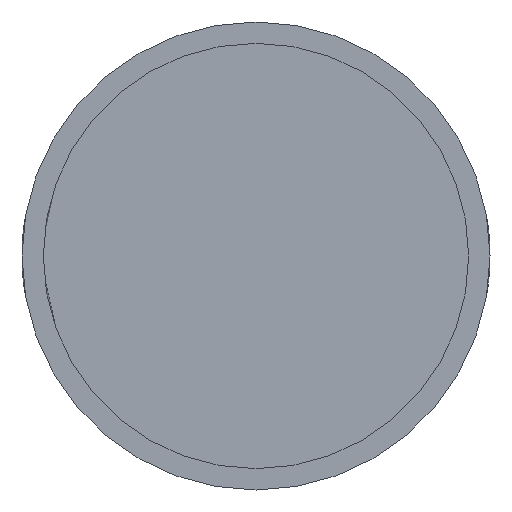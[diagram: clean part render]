
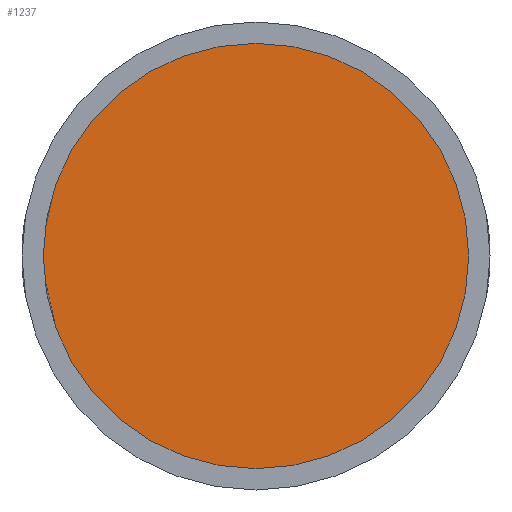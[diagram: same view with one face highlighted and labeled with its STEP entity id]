
A CAD part, front view. The second image highlights one B-rep face of the part: STEP entity #1237.
In plain terms, the highlighted planar face has unit normal (0, -1, 0).
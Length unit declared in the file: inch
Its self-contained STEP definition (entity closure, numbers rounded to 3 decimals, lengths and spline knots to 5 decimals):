
#22 = CIRCLE ( 'NONE', #4223, 0.624 ) ;
#117 = AXIS2_PLACEMENT_3D ( 'NONE', #3010, #682, #2671 ) ;
#208 = CIRCLE ( 'NONE', #210, 0.624 ) ;
#210 = AXIS2_PLACEMENT_3D ( 'NONE', #216, #2550, #560 ) ;
#216 = CARTESIAN_POINT ( 'NONE',  ( 0., 0.375, 0. ) ) ;
#346 = AXIS2_PLACEMENT_3D ( 'NONE', #3591, #3259, #918 ) ;
#419 = VERTEX_POINT ( 'NONE', #2855 ) ;
#560 = DIRECTION ( 'NONE',  ( 0., 0., -1. ) ) ;
#682 = DIRECTION ( 'NONE',  ( 0., -1., 0. ) ) ;
#918 = DIRECTION ( 'NONE',  ( 0., 0., -1. ) ) ;
#1041 = ORIENTED_EDGE ( 'NONE', *, *, #3520, .T. ) ;
#1237 = ADVANCED_FACE ( 'NONE', ( #2113 ), #2291, .T. ) ;
#1433 = EDGE_CURVE ( 'NONE', #419, #3619, #2877, .T. ) ;
#1652 = VERTEX_POINT ( 'NONE', #3088 ) ;
#1724 = CARTESIAN_POINT ( 'NONE',  ( 0., 0.375, 0. ) ) ;
#2053 = DIRECTION ( 'NONE',  ( 0., 0., -1. ) ) ;
#2113 = FACE_OUTER_BOUND ( 'NONE', #3802, .T. ) ;
#2291 = PLANE ( 'NONE',  #346 ) ;
#2452 = ORIENTED_EDGE ( 'NONE', *, *, #3102, .T. ) ;
#2550 = DIRECTION ( 'NONE',  ( 0., -1., 0. ) ) ;
#2671 = DIRECTION ( 'NONE',  ( 0., 0., -1. ) ) ;
#2758 = CARTESIAN_POINT ( 'NONE',  ( 0., 0.375, 0.624 ) ) ;
#2855 = CARTESIAN_POINT ( 'NONE',  ( 0., 0.375, -0.624 ) ) ;
#2877 = CIRCLE ( 'NONE', #117, 0.624 ) ;
#3010 = CARTESIAN_POINT ( 'NONE',  ( 0., 0.375, 0. ) ) ;
#3088 = CARTESIAN_POINT ( 'NONE',  ( -0.624, 0.375, 0. ) ) ;
#3102 = EDGE_CURVE ( 'NONE', #1652, #419, #208, .T. ) ;
#3259 = DIRECTION ( 'NONE',  ( 0., -1., 0. ) ) ;
#3520 = EDGE_CURVE ( 'NONE', #3619, #1652, #22, .T. ) ;
#3563 = ORIENTED_EDGE ( 'NONE', *, *, #1433, .T. ) ;
#3591 = CARTESIAN_POINT ( 'NONE',  ( 0., 0.375, 0. ) ) ;
#3619 = VERTEX_POINT ( 'NONE', #2758 ) ;
#3802 = EDGE_LOOP ( 'NONE', ( #2452, #3563, #1041 ) ) ;
#4038 = DIRECTION ( 'NONE',  ( 0., -1., 0. ) ) ;
#4223 = AXIS2_PLACEMENT_3D ( 'NONE', #1724, #4038, #2053 ) ;
